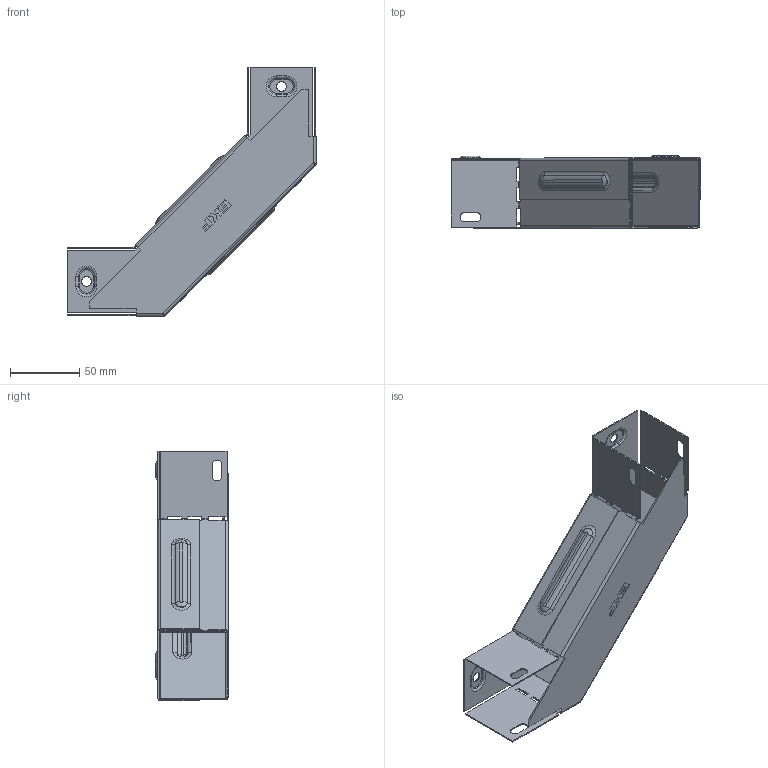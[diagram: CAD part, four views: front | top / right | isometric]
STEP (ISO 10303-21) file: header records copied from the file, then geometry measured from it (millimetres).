
FILE_DESCRIPTION (( 'STEP AP214' ), '1' );
FILE_NAME ('g905050_捘.STEP', '2019-06-10T09:30:19', ( '砐錪賧瘔蠈錪 Windows' ), ( '' ), 'SwSTEP 2.0', 'SolidWorks 2018', '' );
FILE_SCHEMA (( 'AUTOMOTIVE_DESIGN' ));
Length unit declared in the file: millimetre
Products named in the file (1): g905050_捘
Bounding box: 180.8 x 52.3 x 180.8 mm (x, y, z)
Volume: 43411.8 mm3; surface area: 110665 mm2
Topology: 2 solids, 2 shells, 465 faces, 1267 edges, 818 vertices
Faces by surface type: plane 284, cylinder 107, torus 48, bspline 26
Entity records: 15916 total; most frequent: CARTESIAN_POINT 4027, ORIENTED_EDGE 2534, DIRECTION 2353, EDGE_CURVE 1267, LINE 933, VECTOR 933, VERTEX_POINT 818, AXIS2_PLACEMENT_3D 710
